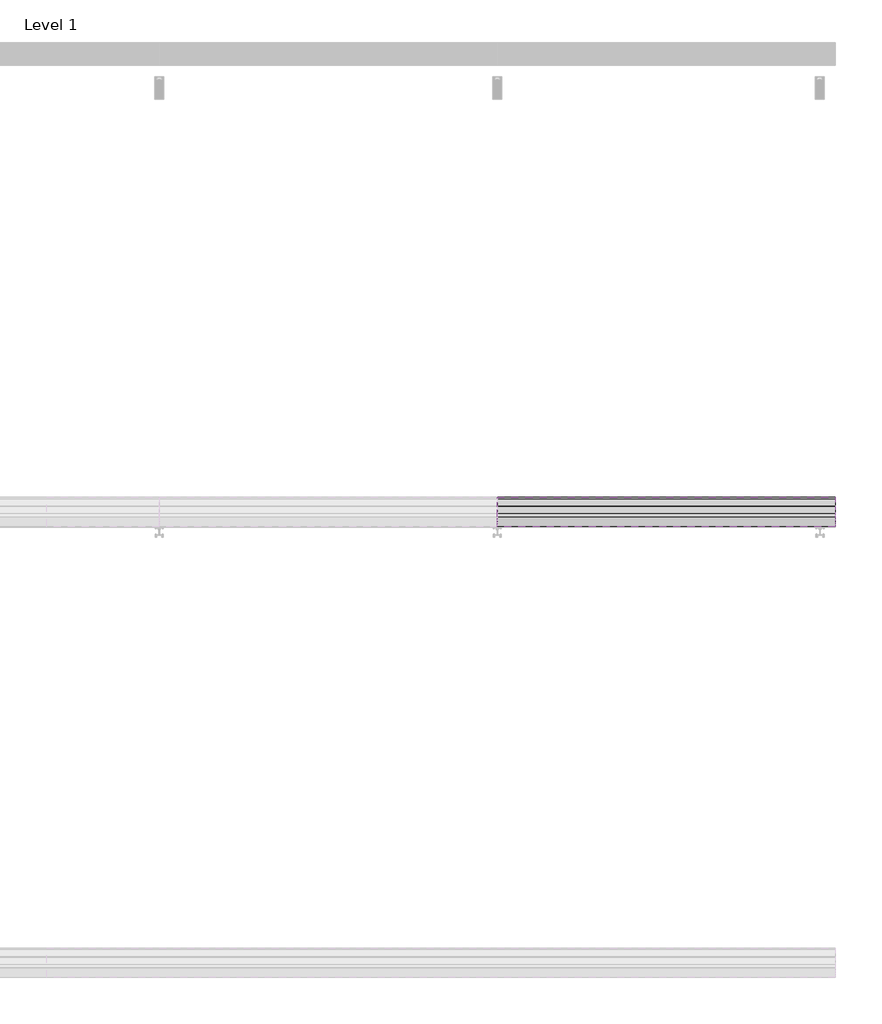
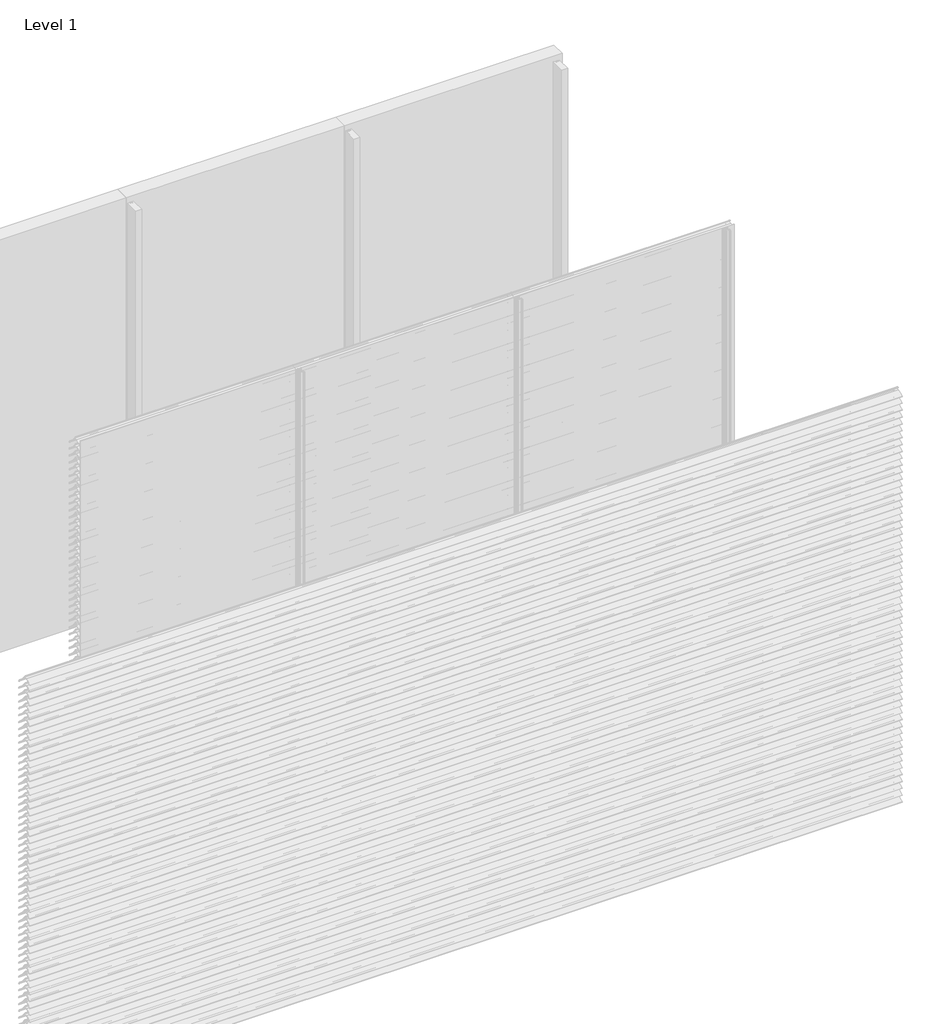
# One storey, part 53 of 173: 18 proxies.
"""IFC4 building model written with IfcOpenShell, lengths in millimetres."""

from ifc_helpers import new_model, si_unit, point, frame, frame_2d, origin, place, context, project, spatial, polyline, circle_curve, trimmed, segment, composite_curve, outline, extrude, element, save

model = new_model("IFC4")

# Units and contexts
model_context = context("Model", 3, world=origin())
ifc_project = project(units=[si_unit("LENGTHUNIT", "METRE", prefix="MILLI")], contexts=[model_context])

# Site, building, storey
site = spatial("IfcSite", under=ifc_project)
building = spatial("IfcBuilding", under=site)
storey = spatial("IfcBuildingStorey", under=building, Name="Level 1", Elevation=0.0)

# Proxies
placement = place(None, origin())
element("IfcBuildingElementProxy", 1, Name="Wall Sweeps", at=placement, inside=storey, context=model_context, shape_type="SweptSolid", body=[
    extrude(outline(composite_curve([segment(polyline([(-41998.0, 1259.1474905), (-41998.0, 1261.6227417)]), True, "CONTINUOUS"), segment(trimmed(circle_curve(frame_2d((-41951.2682172, 1216.2200208)), 65.1557103), [point((-41998.0, 1261.6227417))], [point((-41954.4014323, 1281.3003524))], False, "CARTESIAN"), True, "CONTINUOUS"), segment(polyline([(-41954.4014323, 1281.3003524), (-41934.8315836, 1281.3003524)]), True, "CONTINUOUS"), segment(trimmed(circle_curve(frame_2d((-41732.7329489, 1428.5533172)), 250.0545817), [point((-41934.8315836, 1281.3003524))], [point((-41941.4452143, 1290.8344583))], False, "CARTESIAN"), True, "CONTINUOUS"), segment(trimmed(circle_curve(frame_2d((-41953.2981792, 1285.1737835)), 13.1352966), [point((-41941.4452143, 1290.8344583))], [point((-41953.8171475, 1298.298824))], True, "CARTESIAN"), True, "CONTINUOUS"), segment(polyline([(-41953.8171475, 1298.298824), (-41953.8171475, 1300.0)]), True, "CONTINUOUS"), segment(trimmed(circle_curve(frame_2d((-41953.2981792, 1285.1737835)), 14.8352966), [point((-41953.8171475, 1300.0))], [point((-41939.9637661, 1291.6760487))], False, "CARTESIAN"), True, "CONTINUOUS"), segment(trimmed(circle_curve(frame_2d((-41732.7329489, 1428.5533172)), 248.3545817), [point((-41939.9637661, 1291.6760487))], [point((-41873.8787895, 1224.2059416))], True, "CARTESIAN"), True, "CONTINUOUS"), segment(trimmed(circle_curve(frame_2d((-41883.8147537, 1211.6649442)), 16.0), [point((-41873.8787895, 1224.2059416))], [point((-41867.8648347, 1210.4))], False, "CARTESIAN"), True, "CONTINUOUS"), segment(polyline([(-41867.8648347, 1210.4), (-41869.6712069, 1210.4)]), True, "CONTINUOUS"), segment(trimmed(circle_curve(frame_2d((-41883.8147537, 1211.6649442)), 14.2), [point((-41869.6712069, 1210.4))], [point((-41874.9518628, 1222.7594998))], True, "CARTESIAN"), True, "CONTINUOUS"), segment(trimmed(circle_curve(frame_2d((-41732.7329489, 1428.5533172)), 250.1545817), [point((-41874.9518628, 1222.7594998))], [point((-41933.7064024, 1279.6003524))], False, "CARTESIAN"), True, "CONTINUOUS"), segment(polyline([(-41933.7064024, 1279.6003524), (-41954.3602632, 1279.6003524)]), True, "CONTINUOUS"), segment(trimmed(circle_curve(frame_2d((-41951.2682172, 1216.2200208)), 63.4557103), [point((-41954.3602632, 1279.6003524))], [point((-41998.0, 1259.1474905))], True, "CARTESIAN"), True, "CONTINUOUS")], self_intersect=False)), frame((4500.0, 0.0, 0.0), z_axis=(1.0, 0.0, 0.0), x_axis=(0.0, 1.0, 0.0)), (0.0, 0.0, 1.0), 1500.0),
])
element("IfcBuildingElementProxy", 2, Name="Wall Sweeps", at=placement, inside=storey, context=model_context, shape_type="SweptSolid", body=[
    extrude(outline(composite_curve([segment(polyline([(-41998.0, 1209.1474905), (-41998.0, 1211.6227417)]), True, "CONTINUOUS"), segment(trimmed(circle_curve(frame_2d((-41951.2682172, 1166.2200208)), 65.1557103), [point((-41998.0, 1211.6227417))], [point((-41954.4014323, 1231.3003524))], False, "CARTESIAN"), True, "CONTINUOUS"), segment(polyline([(-41954.4014323, 1231.3003524), (-41934.8315836, 1231.3003524)]), True, "CONTINUOUS"), segment(trimmed(circle_curve(frame_2d((-41732.7329489, 1378.5533172)), 250.0545817), [point((-41934.8315836, 1231.3003524))], [point((-41941.4452143, 1240.8344583))], False, "CARTESIAN"), True, "CONTINUOUS"), segment(trimmed(circle_curve(frame_2d((-41953.2981792, 1235.1737835)), 13.1352966), [point((-41941.4452143, 1240.8344583))], [point((-41953.8171475, 1248.298824))], True, "CARTESIAN"), True, "CONTINUOUS"), segment(polyline([(-41953.8171475, 1248.298824), (-41953.8171475, 1250.0)]), True, "CONTINUOUS"), segment(trimmed(circle_curve(frame_2d((-41953.2981792, 1235.1737835)), 14.8352966), [point((-41953.8171475, 1250.0))], [point((-41939.9637661, 1241.6760487))], False, "CARTESIAN"), True, "CONTINUOUS"), segment(trimmed(circle_curve(frame_2d((-41732.7329489, 1378.5533172)), 248.3545817), [point((-41939.9637661, 1241.6760487))], [point((-41873.8787895, 1174.2059416))], True, "CARTESIAN"), True, "CONTINUOUS"), segment(trimmed(circle_curve(frame_2d((-41883.8147537, 1161.6649442)), 16.0), [point((-41873.8787895, 1174.2059416))], [point((-41867.8648347, 1160.4))], False, "CARTESIAN"), True, "CONTINUOUS"), segment(polyline([(-41867.8648347, 1160.4), (-41869.6712069, 1160.4)]), True, "CONTINUOUS"), segment(trimmed(circle_curve(frame_2d((-41883.8147537, 1161.6649442)), 14.2), [point((-41869.6712069, 1160.4))], [point((-41874.9518628, 1172.7594998))], True, "CARTESIAN"), True, "CONTINUOUS"), segment(trimmed(circle_curve(frame_2d((-41732.7329489, 1378.5533172)), 250.1545817), [point((-41874.9518628, 1172.7594998))], [point((-41933.7064024, 1229.6003524))], False, "CARTESIAN"), True, "CONTINUOUS"), segment(polyline([(-41933.7064024, 1229.6003524), (-41954.3602632, 1229.6003524)]), True, "CONTINUOUS"), segment(trimmed(circle_curve(frame_2d((-41951.2682172, 1166.2200208)), 63.4557103), [point((-41954.3602632, 1229.6003524))], [point((-41998.0, 1209.1474905))], True, "CARTESIAN"), True, "CONTINUOUS")], self_intersect=False)), frame((4500.0, 0.0, 0.0), z_axis=(1.0, 0.0, 0.0), x_axis=(0.0, 1.0, 0.0)), (0.0, 0.0, 1.0), 1500.0),
])
element("IfcBuildingElementProxy", 3, Name="Wall Sweeps", at=placement, inside=storey, context=model_context, shape_type="SweptSolid", body=[
    extrude(outline(composite_curve([segment(polyline([(-41998.0, 1159.1474905), (-41998.0, 1161.6227417)]), True, "CONTINUOUS"), segment(trimmed(circle_curve(frame_2d((-41951.2682172, 1116.2200208)), 65.1557103), [point((-41998.0, 1161.6227417))], [point((-41954.4014323, 1181.3003524))], False, "CARTESIAN"), True, "CONTINUOUS"), segment(polyline([(-41954.4014323, 1181.3003524), (-41934.8315836, 1181.3003524)]), True, "CONTINUOUS"), segment(trimmed(circle_curve(frame_2d((-41732.7329489, 1328.5533172)), 250.0545817), [point((-41934.8315836, 1181.3003524))], [point((-41941.4452143, 1190.8344583))], False, "CARTESIAN"), True, "CONTINUOUS"), segment(trimmed(circle_curve(frame_2d((-41953.2981792, 1185.1737835)), 13.1352966), [point((-41941.4452143, 1190.8344583))], [point((-41953.8171475, 1198.298824))], True, "CARTESIAN"), True, "CONTINUOUS"), segment(polyline([(-41953.8171475, 1198.298824), (-41953.8171475, 1200.0)]), True, "CONTINUOUS"), segment(trimmed(circle_curve(frame_2d((-41953.2981792, 1185.1737835)), 14.8352966), [point((-41953.8171475, 1200.0))], [point((-41939.9637661, 1191.6760487))], False, "CARTESIAN"), True, "CONTINUOUS"), segment(trimmed(circle_curve(frame_2d((-41732.7329489, 1328.5533172)), 248.3545817), [point((-41939.9637661, 1191.6760487))], [point((-41873.8787895, 1124.2059416))], True, "CARTESIAN"), True, "CONTINUOUS"), segment(trimmed(circle_curve(frame_2d((-41883.8147537, 1111.6649442)), 16.0), [point((-41873.8787895, 1124.2059416))], [point((-41867.8648347, 1110.4))], False, "CARTESIAN"), True, "CONTINUOUS"), segment(polyline([(-41867.8648347, 1110.4), (-41869.6712069, 1110.4)]), True, "CONTINUOUS"), segment(trimmed(circle_curve(frame_2d((-41883.8147537, 1111.6649442)), 14.2), [point((-41869.6712069, 1110.4))], [point((-41874.9518628, 1122.7594998))], True, "CARTESIAN"), True, "CONTINUOUS"), segment(trimmed(circle_curve(frame_2d((-41732.7329489, 1328.5533172)), 250.1545817), [point((-41874.9518628, 1122.7594998))], [point((-41933.7064024, 1179.6003524))], False, "CARTESIAN"), True, "CONTINUOUS"), segment(polyline([(-41933.7064024, 1179.6003524), (-41954.3602632, 1179.6003524)]), True, "CONTINUOUS"), segment(trimmed(circle_curve(frame_2d((-41951.2682172, 1116.2200208)), 63.4557103), [point((-41954.3602632, 1179.6003524))], [point((-41998.0, 1159.1474905))], True, "CARTESIAN"), True, "CONTINUOUS")], self_intersect=False)), frame((4500.0, 0.0, 0.0), z_axis=(1.0, 0.0, 0.0), x_axis=(0.0, 1.0, 0.0)), (0.0, 0.0, 1.0), 1500.0),
])
element("IfcBuildingElementProxy", 4, Name="Wall Sweeps", at=placement, inside=storey, context=model_context, shape_type="SweptSolid", body=[
    extrude(outline(composite_curve([segment(polyline([(-41998.0, 1109.1474905), (-41998.0, 1111.6227417)]), True, "CONTINUOUS"), segment(trimmed(circle_curve(frame_2d((-41951.2682172, 1066.2200208)), 65.1557103), [point((-41998.0, 1111.6227417))], [point((-41954.4014323, 1131.3003524))], False, "CARTESIAN"), True, "CONTINUOUS"), segment(polyline([(-41954.4014323, 1131.3003524), (-41934.8315836, 1131.3003524)]), True, "CONTINUOUS"), segment(trimmed(circle_curve(frame_2d((-41732.7329489, 1278.5533172)), 250.0545817), [point((-41934.8315836, 1131.3003524))], [point((-41941.4452143, 1140.8344583))], False, "CARTESIAN"), True, "CONTINUOUS"), segment(trimmed(circle_curve(frame_2d((-41953.2981792, 1135.1737835)), 13.1352966), [point((-41941.4452143, 1140.8344583))], [point((-41953.8171475, 1148.298824))], True, "CARTESIAN"), True, "CONTINUOUS"), segment(polyline([(-41953.8171475, 1148.298824), (-41953.8171475, 1150.0)]), True, "CONTINUOUS"), segment(trimmed(circle_curve(frame_2d((-41953.2981792, 1135.1737835)), 14.8352966), [point((-41953.8171475, 1150.0))], [point((-41939.9637661, 1141.6760487))], False, "CARTESIAN"), True, "CONTINUOUS"), segment(trimmed(circle_curve(frame_2d((-41732.7329489, 1278.5533172)), 248.3545817), [point((-41939.9637661, 1141.6760487))], [point((-41873.8787895, 1074.2059416))], True, "CARTESIAN"), True, "CONTINUOUS"), segment(trimmed(circle_curve(frame_2d((-41883.8147537, 1061.6649442)), 16.0), [point((-41873.8787895, 1074.2059416))], [point((-41867.8648347, 1060.4))], False, "CARTESIAN"), True, "CONTINUOUS"), segment(polyline([(-41867.8648347, 1060.4), (-41869.6712069, 1060.4)]), True, "CONTINUOUS"), segment(trimmed(circle_curve(frame_2d((-41883.8147537, 1061.6649442)), 14.2), [point((-41869.6712069, 1060.4))], [point((-41874.9518628, 1072.7594998))], True, "CARTESIAN"), True, "CONTINUOUS"), segment(trimmed(circle_curve(frame_2d((-41732.7329489, 1278.5533172)), 250.1545817), [point((-41874.9518628, 1072.7594998))], [point((-41933.7064024, 1129.6003524))], False, "CARTESIAN"), True, "CONTINUOUS"), segment(polyline([(-41933.7064024, 1129.6003524), (-41954.3602632, 1129.6003524)]), True, "CONTINUOUS"), segment(trimmed(circle_curve(frame_2d((-41951.2682172, 1066.2200208)), 63.4557103), [point((-41954.3602632, 1129.6003524))], [point((-41998.0, 1109.1474905))], True, "CARTESIAN"), True, "CONTINUOUS")], self_intersect=False)), frame((4500.0, 0.0, 0.0), z_axis=(1.0, 0.0, 0.0), x_axis=(0.0, 1.0, 0.0)), (0.0, 0.0, 1.0), 1500.0),
])
element("IfcBuildingElementProxy", 5, Name="Wall Sweeps", at=placement, inside=storey, context=model_context, shape_type="SweptSolid", body=[
    extrude(outline(composite_curve([segment(polyline([(-41998.0, 1059.1474905), (-41998.0, 1061.6227417)]), True, "CONTINUOUS"), segment(trimmed(circle_curve(frame_2d((-41951.2682172, 1016.2200208)), 65.1557103), [point((-41998.0, 1061.6227417))], [point((-41954.4014323, 1081.3003524))], False, "CARTESIAN"), True, "CONTINUOUS"), segment(polyline([(-41954.4014323, 1081.3003524), (-41934.8315836, 1081.3003524)]), True, "CONTINUOUS"), segment(trimmed(circle_curve(frame_2d((-41732.7329489, 1228.5533172)), 250.0545817), [point((-41934.8315836, 1081.3003524))], [point((-41941.4452143, 1090.8344583))], False, "CARTESIAN"), True, "CONTINUOUS"), segment(trimmed(circle_curve(frame_2d((-41953.2981792, 1085.1737835)), 13.1352966), [point((-41941.4452143, 1090.8344583))], [point((-41953.8171475, 1098.298824))], True, "CARTESIAN"), True, "CONTINUOUS"), segment(polyline([(-41953.8171475, 1098.298824), (-41953.8171475, 1100.0)]), True, "CONTINUOUS"), segment(trimmed(circle_curve(frame_2d((-41953.2981792, 1085.1737835)), 14.8352966), [point((-41953.8171475, 1100.0))], [point((-41939.9637661, 1091.6760487))], False, "CARTESIAN"), True, "CONTINUOUS"), segment(trimmed(circle_curve(frame_2d((-41732.7329489, 1228.5533172)), 248.3545817), [point((-41939.9637661, 1091.6760487))], [point((-41873.8787895, 1024.2059416))], True, "CARTESIAN"), True, "CONTINUOUS"), segment(trimmed(circle_curve(frame_2d((-41883.8147537, 1011.6649442)), 16.0), [point((-41873.8787895, 1024.2059416))], [point((-41867.8648347, 1010.4))], False, "CARTESIAN"), True, "CONTINUOUS"), segment(polyline([(-41867.8648347, 1010.4), (-41869.6712069, 1010.4)]), True, "CONTINUOUS"), segment(trimmed(circle_curve(frame_2d((-41883.8147537, 1011.6649442)), 14.2), [point((-41869.6712069, 1010.4))], [point((-41874.9518628, 1022.7594998))], True, "CARTESIAN"), True, "CONTINUOUS"), segment(trimmed(circle_curve(frame_2d((-41732.7329489, 1228.5533172)), 250.1545817), [point((-41874.9518628, 1022.7594998))], [point((-41933.7064024, 1079.6003524))], False, "CARTESIAN"), True, "CONTINUOUS"), segment(polyline([(-41933.7064024, 1079.6003524), (-41954.3602632, 1079.6003524)]), True, "CONTINUOUS"), segment(trimmed(circle_curve(frame_2d((-41951.2682172, 1016.2200208)), 63.4557103), [point((-41954.3602632, 1079.6003524))], [point((-41998.0, 1059.1474905))], True, "CARTESIAN"), True, "CONTINUOUS")], self_intersect=False)), frame((4500.0, 0.0, 0.0), z_axis=(1.0, 0.0, 0.0), x_axis=(0.0, 1.0, 0.0)), (0.0, 0.0, 1.0), 1500.0),
])
element("IfcBuildingElementProxy", 6, Name="Wall Sweeps", at=placement, inside=storey, context=model_context, shape_type="SweptSolid", body=[
    extrude(outline(composite_curve([segment(polyline([(-41998.0, 1009.1474905), (-41998.0, 1011.6227417)]), True, "CONTINUOUS"), segment(trimmed(circle_curve(frame_2d((-41951.2682172, 966.2200208)), 65.1557103), [point((-41998.0, 1011.6227417))], [point((-41954.4014323, 1031.3003524))], False, "CARTESIAN"), True, "CONTINUOUS"), segment(polyline([(-41954.4014323, 1031.3003524), (-41934.8315836, 1031.3003524)]), True, "CONTINUOUS"), segment(trimmed(circle_curve(frame_2d((-41732.7329489, 1178.5533172)), 250.0545817), [point((-41934.8315836, 1031.3003524))], [point((-41941.4452143, 1040.8344583))], False, "CARTESIAN"), True, "CONTINUOUS"), segment(trimmed(circle_curve(frame_2d((-41953.2981792, 1035.1737835)), 13.1352966), [point((-41941.4452143, 1040.8344583))], [point((-41953.8171475, 1048.298824))], True, "CARTESIAN"), True, "CONTINUOUS"), segment(polyline([(-41953.8171475, 1048.298824), (-41953.8171475, 1050.0)]), True, "CONTINUOUS"), segment(trimmed(circle_curve(frame_2d((-41953.2981792, 1035.1737835)), 14.8352966), [point((-41953.8171475, 1050.0))], [point((-41939.9637661, 1041.6760487))], False, "CARTESIAN"), True, "CONTINUOUS"), segment(trimmed(circle_curve(frame_2d((-41732.7329489, 1178.5533172)), 248.3545817), [point((-41939.9637661, 1041.6760487))], [point((-41873.8787895, 974.2059416))], True, "CARTESIAN"), True, "CONTINUOUS"), segment(trimmed(circle_curve(frame_2d((-41883.8147537, 961.6649442)), 16.0), [point((-41873.8787895, 974.2059416))], [point((-41867.8648347, 960.4))], False, "CARTESIAN"), True, "CONTINUOUS"), segment(polyline([(-41867.8648347, 960.4), (-41869.6712069, 960.4)]), True, "CONTINUOUS"), segment(trimmed(circle_curve(frame_2d((-41883.8147537, 961.6649442)), 14.2), [point((-41869.6712069, 960.4))], [point((-41874.9518628, 972.7594998))], True, "CARTESIAN"), True, "CONTINUOUS"), segment(trimmed(circle_curve(frame_2d((-41732.7329489, 1178.5533172)), 250.1545817), [point((-41874.9518628, 972.7594998))], [point((-41933.7064024, 1029.6003524))], False, "CARTESIAN"), True, "CONTINUOUS"), segment(polyline([(-41933.7064024, 1029.6003524), (-41954.3602632, 1029.6003524)]), True, "CONTINUOUS"), segment(trimmed(circle_curve(frame_2d((-41951.2682172, 966.2200208)), 63.4557103), [point((-41954.3602632, 1029.6003524))], [point((-41998.0, 1009.1474905))], True, "CARTESIAN"), True, "CONTINUOUS")], self_intersect=False)), frame((4500.0, 0.0, 0.0), z_axis=(1.0, 0.0, 0.0), x_axis=(0.0, 1.0, 0.0)), (0.0, 0.0, 1.0), 1500.0),
])
element("IfcBuildingElementProxy", 7, Name="Wall Sweeps", at=placement, inside=storey, context=model_context, shape_type="SweptSolid", body=[
    extrude(outline(composite_curve([segment(polyline([(-41998.0, 959.1474905), (-41998.0, 961.6227417)]), True, "CONTINUOUS"), segment(trimmed(circle_curve(frame_2d((-41951.2682172, 916.2200208)), 65.1557103), [point((-41998.0, 961.6227417))], [point((-41954.4014323, 981.3003524))], False, "CARTESIAN"), True, "CONTINUOUS"), segment(polyline([(-41954.4014323, 981.3003524), (-41934.8315836, 981.3003524)]), True, "CONTINUOUS"), segment(trimmed(circle_curve(frame_2d((-41732.7329489, 1128.5533172)), 250.0545817), [point((-41934.8315836, 981.3003524))], [point((-41941.4452143, 990.8344583))], False, "CARTESIAN"), True, "CONTINUOUS"), segment(trimmed(circle_curve(frame_2d((-41953.2981792, 985.1737835)), 13.1352966), [point((-41941.4452143, 990.8344583))], [point((-41953.8171475, 998.298824))], True, "CARTESIAN"), True, "CONTINUOUS"), segment(polyline([(-41953.8171475, 998.298824), (-41953.8171475, 1000.0)]), True, "CONTINUOUS"), segment(trimmed(circle_curve(frame_2d((-41953.2981792, 985.1737835)), 14.8352966), [point((-41953.8171475, 1000.0))], [point((-41939.9637661, 991.6760487))], False, "CARTESIAN"), True, "CONTINUOUS"), segment(trimmed(circle_curve(frame_2d((-41732.7329489, 1128.5533172)), 248.3545817), [point((-41939.9637661, 991.6760487))], [point((-41873.8787895, 924.2059416))], True, "CARTESIAN"), True, "CONTINUOUS"), segment(trimmed(circle_curve(frame_2d((-41883.8147537, 911.6649442)), 16.0), [point((-41873.8787895, 924.2059416))], [point((-41867.8648347, 910.4))], False, "CARTESIAN"), True, "CONTINUOUS"), segment(polyline([(-41867.8648347, 910.4), (-41869.6712069, 910.4)]), True, "CONTINUOUS"), segment(trimmed(circle_curve(frame_2d((-41883.8147537, 911.6649442)), 14.2), [point((-41869.6712069, 910.4))], [point((-41874.9518628, 922.7594998))], True, "CARTESIAN"), True, "CONTINUOUS"), segment(trimmed(circle_curve(frame_2d((-41732.7329489, 1128.5533172)), 250.1545817), [point((-41874.9518628, 922.7594998))], [point((-41933.7064024, 979.6003524))], False, "CARTESIAN"), True, "CONTINUOUS"), segment(polyline([(-41933.7064024, 979.6003524), (-41954.3602632, 979.6003524)]), True, "CONTINUOUS"), segment(trimmed(circle_curve(frame_2d((-41951.2682172, 916.2200208)), 63.4557103), [point((-41954.3602632, 979.6003524))], [point((-41998.0, 959.1474905))], True, "CARTESIAN"), True, "CONTINUOUS")], self_intersect=False)), frame((4500.0, 0.0, 0.0), z_axis=(1.0, 0.0, 0.0), x_axis=(0.0, 1.0, 0.0)), (0.0, 0.0, 1.0), 1500.0),
])
element("IfcBuildingElementProxy", 8, Name="Wall Sweeps", at=placement, inside=storey, context=model_context, shape_type="SweptSolid", body=[
    extrude(outline(composite_curve([segment(polyline([(-41998.0, 909.1474905), (-41998.0, 911.6227417)]), True, "CONTINUOUS"), segment(trimmed(circle_curve(frame_2d((-41951.2682172, 866.2200208)), 65.1557103), [point((-41998.0, 911.6227417))], [point((-41954.4014323, 931.3003524))], False, "CARTESIAN"), True, "CONTINUOUS"), segment(polyline([(-41954.4014323, 931.3003524), (-41934.8315836, 931.3003524)]), True, "CONTINUOUS"), segment(trimmed(circle_curve(frame_2d((-41732.7329489, 1078.5533172)), 250.0545817), [point((-41934.8315836, 931.3003524))], [point((-41941.4452143, 940.8344583))], False, "CARTESIAN"), True, "CONTINUOUS"), segment(trimmed(circle_curve(frame_2d((-41953.2981792, 935.1737835)), 13.1352966), [point((-41941.4452143, 940.8344583))], [point((-41953.8171475, 948.298824))], True, "CARTESIAN"), True, "CONTINUOUS"), segment(polyline([(-41953.8171475, 948.298824), (-41953.8171475, 950.0)]), True, "CONTINUOUS"), segment(trimmed(circle_curve(frame_2d((-41953.2981792, 935.1737835)), 14.8352966), [point((-41953.8171475, 950.0))], [point((-41939.9637661, 941.6760487))], False, "CARTESIAN"), True, "CONTINUOUS"), segment(trimmed(circle_curve(frame_2d((-41732.7329489, 1078.5533172)), 248.3545817), [point((-41939.9637661, 941.6760487))], [point((-41873.8787895, 874.2059416))], True, "CARTESIAN"), True, "CONTINUOUS"), segment(trimmed(circle_curve(frame_2d((-41883.8147537, 861.6649442)), 16.0), [point((-41873.8787895, 874.2059416))], [point((-41867.8648347, 860.4))], False, "CARTESIAN"), True, "CONTINUOUS"), segment(polyline([(-41867.8648347, 860.4), (-41869.6712069, 860.4)]), True, "CONTINUOUS"), segment(trimmed(circle_curve(frame_2d((-41883.8147537, 861.6649442)), 14.2), [point((-41869.6712069, 860.4))], [point((-41874.9518628, 872.7594998))], True, "CARTESIAN"), True, "CONTINUOUS"), segment(trimmed(circle_curve(frame_2d((-41732.7329489, 1078.5533172)), 250.1545817), [point((-41874.9518628, 872.7594998))], [point((-41933.7064024, 929.6003524))], False, "CARTESIAN"), True, "CONTINUOUS"), segment(polyline([(-41933.7064024, 929.6003524), (-41954.3602632, 929.6003524)]), True, "CONTINUOUS"), segment(trimmed(circle_curve(frame_2d((-41951.2682172, 866.2200208)), 63.4557103), [point((-41954.3602632, 929.6003524))], [point((-41998.0, 909.1474905))], True, "CARTESIAN"), True, "CONTINUOUS")], self_intersect=False)), frame((4500.0, 0.0, 0.0), z_axis=(1.0, 0.0, 0.0), x_axis=(0.0, 1.0, 0.0)), (0.0, 0.0, 1.0), 1500.0),
])
element("IfcBuildingElementProxy", 9, Name="Wall Sweeps", at=placement, inside=storey, context=model_context, shape_type="SweptSolid", body=[
    extrude(outline(composite_curve([segment(polyline([(-41998.0, 859.1474905), (-41998.0, 861.6227417)]), True, "CONTINUOUS"), segment(trimmed(circle_curve(frame_2d((-41951.2682172, 816.2200208)), 65.1557103), [point((-41998.0, 861.6227417))], [point((-41954.4014323, 881.3003524))], False, "CARTESIAN"), True, "CONTINUOUS"), segment(polyline([(-41954.4014323, 881.3003524), (-41934.8315836, 881.3003524)]), True, "CONTINUOUS"), segment(trimmed(circle_curve(frame_2d((-41732.7329489, 1028.5533172)), 250.0545817), [point((-41934.8315836, 881.3003524))], [point((-41941.4452143, 890.8344583))], False, "CARTESIAN"), True, "CONTINUOUS"), segment(trimmed(circle_curve(frame_2d((-41953.2981792, 885.1737835)), 13.1352966), [point((-41941.4452143, 890.8344583))], [point((-41953.8171475, 898.298824))], True, "CARTESIAN"), True, "CONTINUOUS"), segment(polyline([(-41953.8171475, 898.298824), (-41953.8171475, 900.0)]), True, "CONTINUOUS"), segment(trimmed(circle_curve(frame_2d((-41953.2981792, 885.1737835)), 14.8352966), [point((-41953.8171475, 900.0))], [point((-41939.9637661, 891.6760487))], False, "CARTESIAN"), True, "CONTINUOUS"), segment(trimmed(circle_curve(frame_2d((-41732.7329489, 1028.5533172)), 248.3545817), [point((-41939.9637661, 891.6760487))], [point((-41873.8787895, 824.2059416))], True, "CARTESIAN"), True, "CONTINUOUS"), segment(trimmed(circle_curve(frame_2d((-41883.8147537, 811.6649442)), 16.0), [point((-41873.8787895, 824.2059416))], [point((-41867.8648347, 810.4))], False, "CARTESIAN"), True, "CONTINUOUS"), segment(polyline([(-41867.8648347, 810.4), (-41869.6712069, 810.4)]), True, "CONTINUOUS"), segment(trimmed(circle_curve(frame_2d((-41883.8147537, 811.6649442)), 14.2), [point((-41869.6712069, 810.4))], [point((-41874.9518628, 822.7594998))], True, "CARTESIAN"), True, "CONTINUOUS"), segment(trimmed(circle_curve(frame_2d((-41732.7329489, 1028.5533172)), 250.1545817), [point((-41874.9518628, 822.7594998))], [point((-41933.7064024, 879.6003524))], False, "CARTESIAN"), True, "CONTINUOUS"), segment(polyline([(-41933.7064024, 879.6003524), (-41954.3602632, 879.6003524)]), True, "CONTINUOUS"), segment(trimmed(circle_curve(frame_2d((-41951.2682172, 816.2200208)), 63.4557103), [point((-41954.3602632, 879.6003524))], [point((-41998.0, 859.1474905))], True, "CARTESIAN"), True, "CONTINUOUS")], self_intersect=False)), frame((4500.0, 0.0, 0.0), z_axis=(1.0, 0.0, 0.0), x_axis=(0.0, 1.0, 0.0)), (0.0, 0.0, 1.0), 1500.0),
])
element("IfcBuildingElementProxy", 10, Name="Wall Sweeps", at=placement, inside=storey, context=model_context, shape_type="SweptSolid", body=[
    extrude(outline(composite_curve([segment(polyline([(-41998.0, 809.1474905), (-41998.0, 811.6227417)]), True, "CONTINUOUS"), segment(trimmed(circle_curve(frame_2d((-41951.2682172, 766.2200208)), 65.1557103), [point((-41998.0, 811.6227417))], [point((-41954.4014323, 831.3003524))], False, "CARTESIAN"), True, "CONTINUOUS"), segment(polyline([(-41954.4014323, 831.3003524), (-41934.8315836, 831.3003524)]), True, "CONTINUOUS"), segment(trimmed(circle_curve(frame_2d((-41732.7329489, 978.5533172)), 250.0545817), [point((-41934.8315836, 831.3003524))], [point((-41941.4452143, 840.8344583))], False, "CARTESIAN"), True, "CONTINUOUS"), segment(trimmed(circle_curve(frame_2d((-41953.2981792, 835.1737835)), 13.1352966), [point((-41941.4452143, 840.8344583))], [point((-41953.8171475, 848.298824))], True, "CARTESIAN"), True, "CONTINUOUS"), segment(polyline([(-41953.8171475, 848.298824), (-41953.8171475, 850.0)]), True, "CONTINUOUS"), segment(trimmed(circle_curve(frame_2d((-41953.2981792, 835.1737835)), 14.8352966), [point((-41953.8171475, 850.0))], [point((-41939.9637661, 841.6760487))], False, "CARTESIAN"), True, "CONTINUOUS"), segment(trimmed(circle_curve(frame_2d((-41732.7329489, 978.5533172)), 248.3545817), [point((-41939.9637661, 841.6760487))], [point((-41873.8787895, 774.2059416))], True, "CARTESIAN"), True, "CONTINUOUS"), segment(trimmed(circle_curve(frame_2d((-41883.8147537, 761.6649442)), 16.0), [point((-41873.8787895, 774.2059416))], [point((-41867.8648347, 760.4))], False, "CARTESIAN"), True, "CONTINUOUS"), segment(polyline([(-41867.8648347, 760.4), (-41869.6712069, 760.4)]), True, "CONTINUOUS"), segment(trimmed(circle_curve(frame_2d((-41883.8147537, 761.6649442)), 14.2), [point((-41869.6712069, 760.4))], [point((-41874.9518628, 772.7594998))], True, "CARTESIAN"), True, "CONTINUOUS"), segment(trimmed(circle_curve(frame_2d((-41732.7329489, 978.5533172)), 250.1545817), [point((-41874.9518628, 772.7594998))], [point((-41933.7064024, 829.6003524))], False, "CARTESIAN"), True, "CONTINUOUS"), segment(polyline([(-41933.7064024, 829.6003524), (-41954.3602632, 829.6003524)]), True, "CONTINUOUS"), segment(trimmed(circle_curve(frame_2d((-41951.2682172, 766.2200208)), 63.4557103), [point((-41954.3602632, 829.6003524))], [point((-41998.0, 809.1474905))], True, "CARTESIAN"), True, "CONTINUOUS")], self_intersect=False)), frame((4500.0, 0.0, 0.0), z_axis=(1.0, 0.0, 0.0), x_axis=(0.0, 1.0, 0.0)), (0.0, 0.0, 1.0), 1500.0),
])
element("IfcBuildingElementProxy", 11, Name="Wall Sweeps", at=placement, inside=storey, context=model_context, shape_type="SweptSolid", body=[
    extrude(outline(composite_curve([segment(polyline([(-41998.0, 759.1474905), (-41998.0, 761.6227417)]), True, "CONTINUOUS"), segment(trimmed(circle_curve(frame_2d((-41951.2682172, 716.2200208)), 65.1557103), [point((-41998.0, 761.6227417))], [point((-41954.4014323, 781.3003524))], False, "CARTESIAN"), True, "CONTINUOUS"), segment(polyline([(-41954.4014323, 781.3003524), (-41934.8315836, 781.3003524)]), True, "CONTINUOUS"), segment(trimmed(circle_curve(frame_2d((-41732.7329489, 928.5533172)), 250.0545817), [point((-41934.8315836, 781.3003524))], [point((-41941.4452143, 790.8344583))], False, "CARTESIAN"), True, "CONTINUOUS"), segment(trimmed(circle_curve(frame_2d((-41953.2981792, 785.1737835)), 13.1352966), [point((-41941.4452143, 790.8344583))], [point((-41953.8171475, 798.298824))], True, "CARTESIAN"), True, "CONTINUOUS"), segment(polyline([(-41953.8171475, 798.298824), (-41953.8171475, 800.0)]), True, "CONTINUOUS"), segment(trimmed(circle_curve(frame_2d((-41953.2981792, 785.1737835)), 14.8352966), [point((-41953.8171475, 800.0))], [point((-41939.9637661, 791.6760487))], False, "CARTESIAN"), True, "CONTINUOUS"), segment(trimmed(circle_curve(frame_2d((-41732.7329489, 928.5533172)), 248.3545817), [point((-41939.9637661, 791.6760487))], [point((-41873.8787895, 724.2059416))], True, "CARTESIAN"), True, "CONTINUOUS"), segment(trimmed(circle_curve(frame_2d((-41883.8147537, 711.6649442)), 16.0), [point((-41873.8787895, 724.2059416))], [point((-41867.8648347, 710.4))], False, "CARTESIAN"), True, "CONTINUOUS"), segment(polyline([(-41867.8648347, 710.4), (-41869.6712069, 710.4)]), True, "CONTINUOUS"), segment(trimmed(circle_curve(frame_2d((-41883.8147537, 711.6649442)), 14.2), [point((-41869.6712069, 710.4))], [point((-41874.9518628, 722.7594998))], True, "CARTESIAN"), True, "CONTINUOUS"), segment(trimmed(circle_curve(frame_2d((-41732.7329489, 928.5533172)), 250.1545817), [point((-41874.9518628, 722.7594998))], [point((-41933.7064024, 779.6003524))], False, "CARTESIAN"), True, "CONTINUOUS"), segment(polyline([(-41933.7064024, 779.6003524), (-41954.3602632, 779.6003524)]), True, "CONTINUOUS"), segment(trimmed(circle_curve(frame_2d((-41951.2682172, 716.2200208)), 63.4557103), [point((-41954.3602632, 779.6003524))], [point((-41998.0, 759.1474905))], True, "CARTESIAN"), True, "CONTINUOUS")], self_intersect=False)), frame((4500.0, 0.0, 0.0), z_axis=(1.0, 0.0, 0.0), x_axis=(0.0, 1.0, 0.0)), (0.0, 0.0, 1.0), 1500.0),
])
element("IfcBuildingElementProxy", 12, Name="Wall Sweeps", at=placement, inside=storey, context=model_context, shape_type="SweptSolid", body=[
    extrude(outline(composite_curve([segment(polyline([(-41998.0, 709.1474905), (-41998.0, 711.6227417)]), True, "CONTINUOUS"), segment(trimmed(circle_curve(frame_2d((-41951.2682172, 666.2200208)), 65.1557103), [point((-41998.0, 711.6227417))], [point((-41954.4014323, 731.3003524))], False, "CARTESIAN"), True, "CONTINUOUS"), segment(polyline([(-41954.4014323, 731.3003524), (-41934.8315836, 731.3003524)]), True, "CONTINUOUS"), segment(trimmed(circle_curve(frame_2d((-41732.7329489, 878.5533172)), 250.0545817), [point((-41934.8315836, 731.3003524))], [point((-41941.4452143, 740.8344583))], False, "CARTESIAN"), True, "CONTINUOUS"), segment(trimmed(circle_curve(frame_2d((-41953.2981792, 735.1737835)), 13.1352966), [point((-41941.4452143, 740.8344583))], [point((-41953.8171475, 748.298824))], True, "CARTESIAN"), True, "CONTINUOUS"), segment(polyline([(-41953.8171475, 748.298824), (-41953.8171475, 750.0)]), True, "CONTINUOUS"), segment(trimmed(circle_curve(frame_2d((-41953.2981792, 735.1737835)), 14.8352966), [point((-41953.8171475, 750.0))], [point((-41939.9637661, 741.6760487))], False, "CARTESIAN"), True, "CONTINUOUS"), segment(trimmed(circle_curve(frame_2d((-41732.7329489, 878.5533172)), 248.3545817), [point((-41939.9637661, 741.6760487))], [point((-41873.8787895, 674.2059416))], True, "CARTESIAN"), True, "CONTINUOUS"), segment(trimmed(circle_curve(frame_2d((-41883.8147537, 661.6649442)), 16.0), [point((-41873.8787895, 674.2059416))], [point((-41867.8648347, 660.4))], False, "CARTESIAN"), True, "CONTINUOUS"), segment(polyline([(-41867.8648347, 660.4), (-41869.6712069, 660.4)]), True, "CONTINUOUS"), segment(trimmed(circle_curve(frame_2d((-41883.8147537, 661.6649442)), 14.2), [point((-41869.6712069, 660.4))], [point((-41874.9518628, 672.7594998))], True, "CARTESIAN"), True, "CONTINUOUS"), segment(trimmed(circle_curve(frame_2d((-41732.7329489, 878.5533172)), 250.1545817), [point((-41874.9518628, 672.7594998))], [point((-41933.7064024, 729.6003524))], False, "CARTESIAN"), True, "CONTINUOUS"), segment(polyline([(-41933.7064024, 729.6003524), (-41954.3602632, 729.6003524)]), True, "CONTINUOUS"), segment(trimmed(circle_curve(frame_2d((-41951.2682172, 666.2200208)), 63.4557103), [point((-41954.3602632, 729.6003524))], [point((-41998.0, 709.1474905))], True, "CARTESIAN"), True, "CONTINUOUS")], self_intersect=False)), frame((4500.0, 0.0, 0.0), z_axis=(1.0, 0.0, 0.0), x_axis=(0.0, 1.0, 0.0)), (0.0, 0.0, 1.0), 1500.0),
])
element("IfcBuildingElementProxy", 13, Name="Wall Sweeps", at=placement, inside=storey, context=model_context, shape_type="SweptSolid", body=[
    extrude(outline(composite_curve([segment(polyline([(-41998.0, 659.1474905), (-41998.0, 661.6227417)]), True, "CONTINUOUS"), segment(trimmed(circle_curve(frame_2d((-41951.2682172, 616.2200208)), 65.1557103), [point((-41998.0, 661.6227417))], [point((-41954.4014323, 681.3003524))], False, "CARTESIAN"), True, "CONTINUOUS"), segment(polyline([(-41954.4014323, 681.3003524), (-41934.8315836, 681.3003524)]), True, "CONTINUOUS"), segment(trimmed(circle_curve(frame_2d((-41732.7329489, 828.5533172)), 250.0545817), [point((-41934.8315836, 681.3003524))], [point((-41941.4452143, 690.8344583))], False, "CARTESIAN"), True, "CONTINUOUS"), segment(trimmed(circle_curve(frame_2d((-41953.2981792, 685.1737835)), 13.1352966), [point((-41941.4452143, 690.8344583))], [point((-41953.8171475, 698.298824))], True, "CARTESIAN"), True, "CONTINUOUS"), segment(polyline([(-41953.8171475, 698.298824), (-41953.8171475, 700.0)]), True, "CONTINUOUS"), segment(trimmed(circle_curve(frame_2d((-41953.2981792, 685.1737835)), 14.8352966), [point((-41953.8171475, 700.0))], [point((-41939.9637661, 691.6760487))], False, "CARTESIAN"), True, "CONTINUOUS"), segment(trimmed(circle_curve(frame_2d((-41732.7329489, 828.5533172)), 248.3545817), [point((-41939.9637661, 691.6760487))], [point((-41873.8787895, 624.2059416))], True, "CARTESIAN"), True, "CONTINUOUS"), segment(trimmed(circle_curve(frame_2d((-41883.8147537, 611.6649442)), 16.0), [point((-41873.8787895, 624.2059416))], [point((-41867.8648347, 610.4))], False, "CARTESIAN"), True, "CONTINUOUS"), segment(polyline([(-41867.8648347, 610.4), (-41869.6712069, 610.4)]), True, "CONTINUOUS"), segment(trimmed(circle_curve(frame_2d((-41883.8147537, 611.6649442)), 14.2), [point((-41869.6712069, 610.4))], [point((-41874.9518628, 622.7594998))], True, "CARTESIAN"), True, "CONTINUOUS"), segment(trimmed(circle_curve(frame_2d((-41732.7329489, 828.5533172)), 250.1545817), [point((-41874.9518628, 622.7594998))], [point((-41933.7064024, 679.6003524))], False, "CARTESIAN"), True, "CONTINUOUS"), segment(polyline([(-41933.7064024, 679.6003524), (-41954.3602632, 679.6003524)]), True, "CONTINUOUS"), segment(trimmed(circle_curve(frame_2d((-41951.2682172, 616.2200208)), 63.4557103), [point((-41954.3602632, 679.6003524))], [point((-41998.0, 659.1474905))], True, "CARTESIAN"), True, "CONTINUOUS")], self_intersect=False)), frame((4500.0, 0.0, 0.0), z_axis=(1.0, 0.0, 0.0), x_axis=(0.0, 1.0, 0.0)), (0.0, 0.0, 1.0), 1500.0),
])
element("IfcBuildingElementProxy", 14, Name="Wall Sweeps", at=placement, inside=storey, context=model_context, shape_type="SweptSolid", body=[
    extrude(outline(composite_curve([segment(polyline([(-41998.0, 609.1474905), (-41998.0, 611.6227417)]), True, "CONTINUOUS"), segment(trimmed(circle_curve(frame_2d((-41951.2682172, 566.2200208)), 65.1557103), [point((-41998.0, 611.6227417))], [point((-41954.4014323, 631.3003524))], False, "CARTESIAN"), True, "CONTINUOUS"), segment(polyline([(-41954.4014323, 631.3003524), (-41934.8315836, 631.3003524)]), True, "CONTINUOUS"), segment(trimmed(circle_curve(frame_2d((-41732.7329489, 778.5533172)), 250.0545817), [point((-41934.8315836, 631.3003524))], [point((-41941.4452143, 640.8344583))], False, "CARTESIAN"), True, "CONTINUOUS"), segment(trimmed(circle_curve(frame_2d((-41953.2981792, 635.1737835)), 13.1352966), [point((-41941.4452143, 640.8344583))], [point((-41953.8171475, 648.298824))], True, "CARTESIAN"), True, "CONTINUOUS"), segment(polyline([(-41953.8171475, 648.298824), (-41953.8171475, 650.0)]), True, "CONTINUOUS"), segment(trimmed(circle_curve(frame_2d((-41953.2981792, 635.1737835)), 14.8352966), [point((-41953.8171475, 650.0))], [point((-41939.9637661, 641.6760487))], False, "CARTESIAN"), True, "CONTINUOUS"), segment(trimmed(circle_curve(frame_2d((-41732.7329489, 778.5533172)), 248.3545817), [point((-41939.9637661, 641.6760487))], [point((-41873.8787895, 574.2059416))], True, "CARTESIAN"), True, "CONTINUOUS"), segment(trimmed(circle_curve(frame_2d((-41883.8147537, 561.6649442)), 16.0), [point((-41873.8787895, 574.2059416))], [point((-41867.8648347, 560.4))], False, "CARTESIAN"), True, "CONTINUOUS"), segment(polyline([(-41867.8648347, 560.4), (-41869.6712069, 560.4)]), True, "CONTINUOUS"), segment(trimmed(circle_curve(frame_2d((-41883.8147537, 561.6649442)), 14.2), [point((-41869.6712069, 560.4))], [point((-41874.9518628, 572.7594998))], True, "CARTESIAN"), True, "CONTINUOUS"), segment(trimmed(circle_curve(frame_2d((-41732.7329489, 778.5533172)), 250.1545817), [point((-41874.9518628, 572.7594998))], [point((-41933.7064024, 629.6003524))], False, "CARTESIAN"), True, "CONTINUOUS"), segment(polyline([(-41933.7064024, 629.6003524), (-41954.3602632, 629.6003524)]), True, "CONTINUOUS"), segment(trimmed(circle_curve(frame_2d((-41951.2682172, 566.2200208)), 63.4557103), [point((-41954.3602632, 629.6003524))], [point((-41998.0, 609.1474905))], True, "CARTESIAN"), True, "CONTINUOUS")], self_intersect=False)), frame((4500.0, 0.0, 0.0), z_axis=(1.0, 0.0, 0.0), x_axis=(0.0, 1.0, 0.0)), (0.0, 0.0, 1.0), 1500.0),
])
element("IfcBuildingElementProxy", 15, Name="Wall Sweeps", at=placement, inside=storey, context=model_context, shape_type="SweptSolid", body=[
    extrude(outline(composite_curve([segment(polyline([(-41998.0, 559.1474905), (-41998.0, 561.6227417)]), True, "CONTINUOUS"), segment(trimmed(circle_curve(frame_2d((-41951.2682172, 516.2200208)), 65.1557103), [point((-41998.0, 561.6227417))], [point((-41954.4014323, 581.3003524))], False, "CARTESIAN"), True, "CONTINUOUS"), segment(polyline([(-41954.4014323, 581.3003524), (-41934.8315836, 581.3003524)]), True, "CONTINUOUS"), segment(trimmed(circle_curve(frame_2d((-41732.7329489, 728.5533172)), 250.0545817), [point((-41934.8315836, 581.3003524))], [point((-41941.4452143, 590.8344583))], False, "CARTESIAN"), True, "CONTINUOUS"), segment(trimmed(circle_curve(frame_2d((-41953.2981792, 585.1737835)), 13.1352966), [point((-41941.4452143, 590.8344583))], [point((-41953.8171475, 598.298824))], True, "CARTESIAN"), True, "CONTINUOUS"), segment(polyline([(-41953.8171475, 598.298824), (-41953.8171475, 600.0)]), True, "CONTINUOUS"), segment(trimmed(circle_curve(frame_2d((-41953.2981792, 585.1737835)), 14.8352966), [point((-41953.8171475, 600.0))], [point((-41939.9637661, 591.6760487))], False, "CARTESIAN"), True, "CONTINUOUS"), segment(trimmed(circle_curve(frame_2d((-41732.7329489, 728.5533172)), 248.3545817), [point((-41939.9637661, 591.6760487))], [point((-41873.8787895, 524.2059416))], True, "CARTESIAN"), True, "CONTINUOUS"), segment(trimmed(circle_curve(frame_2d((-41883.8147537, 511.6649442)), 16.0), [point((-41873.8787895, 524.2059416))], [point((-41867.8648347, 510.4))], False, "CARTESIAN"), True, "CONTINUOUS"), segment(polyline([(-41867.8648347, 510.4), (-41869.6712069, 510.4)]), True, "CONTINUOUS"), segment(trimmed(circle_curve(frame_2d((-41883.8147537, 511.6649442)), 14.2), [point((-41869.6712069, 510.4))], [point((-41874.9518628, 522.7594998))], True, "CARTESIAN"), True, "CONTINUOUS"), segment(trimmed(circle_curve(frame_2d((-41732.7329489, 728.5533172)), 250.1545817), [point((-41874.9518628, 522.7594998))], [point((-41933.7064024, 579.6003524))], False, "CARTESIAN"), True, "CONTINUOUS"), segment(polyline([(-41933.7064024, 579.6003524), (-41954.3602632, 579.6003524)]), True, "CONTINUOUS"), segment(trimmed(circle_curve(frame_2d((-41951.2682172, 516.2200208)), 63.4557103), [point((-41954.3602632, 579.6003524))], [point((-41998.0, 559.1474905))], True, "CARTESIAN"), True, "CONTINUOUS")], self_intersect=False)), frame((4500.0, 0.0, 0.0), z_axis=(1.0, 0.0, 0.0), x_axis=(0.0, 1.0, 0.0)), (0.0, 0.0, 1.0), 1500.0),
])
element("IfcBuildingElementProxy", 16, Name="Wall Sweeps", at=placement, inside=storey, context=model_context, shape_type="SweptSolid", body=[
    extrude(outline(composite_curve([segment(polyline([(-41998.0, 509.1474905), (-41998.0, 511.6227417)]), True, "CONTINUOUS"), segment(trimmed(circle_curve(frame_2d((-41951.2682172, 466.2200208)), 65.1557103), [point((-41998.0, 511.6227417))], [point((-41954.4014323, 531.3003524))], False, "CARTESIAN"), True, "CONTINUOUS"), segment(polyline([(-41954.4014323, 531.3003524), (-41934.8315836, 531.3003524)]), True, "CONTINUOUS"), segment(trimmed(circle_curve(frame_2d((-41732.7329489, 678.5533172)), 250.0545817), [point((-41934.8315836, 531.3003524))], [point((-41941.4452143, 540.8344583))], False, "CARTESIAN"), True, "CONTINUOUS"), segment(trimmed(circle_curve(frame_2d((-41953.2981792, 535.1737835)), 13.1352966), [point((-41941.4452143, 540.8344583))], [point((-41953.8171475, 548.298824))], True, "CARTESIAN"), True, "CONTINUOUS"), segment(polyline([(-41953.8171475, 548.298824), (-41953.8171475, 550.0)]), True, "CONTINUOUS"), segment(trimmed(circle_curve(frame_2d((-41953.2981792, 535.1737835)), 14.8352966), [point((-41953.8171475, 550.0))], [point((-41939.9637661, 541.6760487))], False, "CARTESIAN"), True, "CONTINUOUS"), segment(trimmed(circle_curve(frame_2d((-41732.7329489, 678.5533172)), 248.3545817), [point((-41939.9637661, 541.6760487))], [point((-41873.8787895, 474.2059416))], True, "CARTESIAN"), True, "CONTINUOUS"), segment(trimmed(circle_curve(frame_2d((-41883.8147537, 461.6649442)), 16.0), [point((-41873.8787895, 474.2059416))], [point((-41867.8648347, 460.4))], False, "CARTESIAN"), True, "CONTINUOUS"), segment(polyline([(-41867.8648347, 460.4), (-41869.6712069, 460.4)]), True, "CONTINUOUS"), segment(trimmed(circle_curve(frame_2d((-41883.8147537, 461.6649442)), 14.2), [point((-41869.6712069, 460.4))], [point((-41874.9518628, 472.7594998))], True, "CARTESIAN"), True, "CONTINUOUS"), segment(trimmed(circle_curve(frame_2d((-41732.7329489, 678.5533172)), 250.1545817), [point((-41874.9518628, 472.7594998))], [point((-41933.7064024, 529.6003524))], False, "CARTESIAN"), True, "CONTINUOUS"), segment(polyline([(-41933.7064024, 529.6003524), (-41954.3602632, 529.6003524)]), True, "CONTINUOUS"), segment(trimmed(circle_curve(frame_2d((-41951.2682172, 466.2200208)), 63.4557103), [point((-41954.3602632, 529.6003524))], [point((-41998.0, 509.1474905))], True, "CARTESIAN"), True, "CONTINUOUS")], self_intersect=False)), frame((4500.0, 0.0, 0.0), z_axis=(1.0, 0.0, 0.0), x_axis=(0.0, 1.0, 0.0)), (0.0, 0.0, 1.0), 1500.0),
])
element("IfcBuildingElementProxy", 17, Name="Wall Sweeps", at=placement, inside=storey, context=model_context, shape_type="SweptSolid", body=[
    extrude(outline(composite_curve([segment(polyline([(-41998.0, 459.1474905), (-41998.0, 461.6227417)]), True, "CONTINUOUS"), segment(trimmed(circle_curve(frame_2d((-41951.2682172, 416.2200208)), 65.1557103), [point((-41998.0, 461.6227417))], [point((-41954.4014323, 481.3003524))], False, "CARTESIAN"), True, "CONTINUOUS"), segment(polyline([(-41954.4014323, 481.3003524), (-41934.8315836, 481.3003524)]), True, "CONTINUOUS"), segment(trimmed(circle_curve(frame_2d((-41732.7329489, 628.5533172)), 250.0545817), [point((-41934.8315836, 481.3003524))], [point((-41941.4452143, 490.8344583))], False, "CARTESIAN"), True, "CONTINUOUS"), segment(trimmed(circle_curve(frame_2d((-41953.2981792, 485.1737835)), 13.1352966), [point((-41941.4452143, 490.8344583))], [point((-41953.8171475, 498.298824))], True, "CARTESIAN"), True, "CONTINUOUS"), segment(polyline([(-41953.8171475, 498.298824), (-41953.8171475, 500.0)]), True, "CONTINUOUS"), segment(trimmed(circle_curve(frame_2d((-41953.2981792, 485.1737835)), 14.8352966), [point((-41953.8171475, 500.0))], [point((-41939.9637661, 491.6760487))], False, "CARTESIAN"), True, "CONTINUOUS"), segment(trimmed(circle_curve(frame_2d((-41732.7329489, 628.5533172)), 248.3545817), [point((-41939.9637661, 491.6760487))], [point((-41873.8787895, 424.2059416))], True, "CARTESIAN"), True, "CONTINUOUS"), segment(trimmed(circle_curve(frame_2d((-41883.8147537, 411.6649442)), 16.0), [point((-41873.8787895, 424.2059416))], [point((-41867.8648347, 410.4))], False, "CARTESIAN"), True, "CONTINUOUS"), segment(polyline([(-41867.8648347, 410.4), (-41869.6712069, 410.4)]), True, "CONTINUOUS"), segment(trimmed(circle_curve(frame_2d((-41883.8147537, 411.6649442)), 14.2), [point((-41869.6712069, 410.4))], [point((-41874.9518628, 422.7594998))], True, "CARTESIAN"), True, "CONTINUOUS"), segment(trimmed(circle_curve(frame_2d((-41732.7329489, 628.5533172)), 250.1545817), [point((-41874.9518628, 422.7594998))], [point((-41933.7064024, 479.6003524))], False, "CARTESIAN"), True, "CONTINUOUS"), segment(polyline([(-41933.7064024, 479.6003524), (-41954.3602632, 479.6003524)]), True, "CONTINUOUS"), segment(trimmed(circle_curve(frame_2d((-41951.2682172, 416.2200208)), 63.4557103), [point((-41954.3602632, 479.6003524))], [point((-41998.0, 459.1474905))], True, "CARTESIAN"), True, "CONTINUOUS")], self_intersect=False)), frame((4500.0, 0.0, 0.0), z_axis=(1.0, 0.0, 0.0), x_axis=(0.0, 1.0, 0.0)), (0.0, 0.0, 1.0), 1500.0),
])
element("IfcBuildingElementProxy", 18, Name="Wall Sweeps", at=placement, inside=storey, context=model_context, shape_type="SweptSolid", body=[
    extrude(outline(composite_curve([segment(polyline([(-41998.0, 409.1474905), (-41998.0, 411.6227417)]), True, "CONTINUOUS"), segment(trimmed(circle_curve(frame_2d((-41951.2682172, 366.2200208)), 65.1557103), [point((-41998.0, 411.6227417))], [point((-41954.4014323, 431.3003524))], False, "CARTESIAN"), True, "CONTINUOUS"), segment(polyline([(-41954.4014323, 431.3003524), (-41934.8315836, 431.3003524)]), True, "CONTINUOUS"), segment(trimmed(circle_curve(frame_2d((-41732.7329489, 578.5533172)), 250.0545817), [point((-41934.8315836, 431.3003524))], [point((-41941.4452143, 440.8344583))], False, "CARTESIAN"), True, "CONTINUOUS"), segment(trimmed(circle_curve(frame_2d((-41953.2981792, 435.1737835)), 13.1352966), [point((-41941.4452143, 440.8344583))], [point((-41953.8171475, 448.298824))], True, "CARTESIAN"), True, "CONTINUOUS"), segment(polyline([(-41953.8171475, 448.298824), (-41953.8171475, 450.0)]), True, "CONTINUOUS"), segment(trimmed(circle_curve(frame_2d((-41953.2981792, 435.1737835)), 14.8352966), [point((-41953.8171475, 450.0))], [point((-41939.9637661, 441.6760487))], False, "CARTESIAN"), True, "CONTINUOUS"), segment(trimmed(circle_curve(frame_2d((-41732.7329489, 578.5533172)), 248.3545817), [point((-41939.9637661, 441.6760487))], [point((-41873.8787895, 374.2059416))], True, "CARTESIAN"), True, "CONTINUOUS"), segment(trimmed(circle_curve(frame_2d((-41883.8147537, 361.6649442)), 16.0), [point((-41873.8787895, 374.2059416))], [point((-41867.8648347, 360.4))], False, "CARTESIAN"), True, "CONTINUOUS"), segment(polyline([(-41867.8648347, 360.4), (-41869.6712069, 360.4)]), True, "CONTINUOUS"), segment(trimmed(circle_curve(frame_2d((-41883.8147537, 361.6649442)), 14.2), [point((-41869.6712069, 360.4))], [point((-41874.9518628, 372.7594998))], True, "CARTESIAN"), True, "CONTINUOUS"), segment(trimmed(circle_curve(frame_2d((-41732.7329489, 578.5533172)), 250.1545817), [point((-41874.9518628, 372.7594998))], [point((-41933.7064024, 429.6003524))], False, "CARTESIAN"), True, "CONTINUOUS"), segment(polyline([(-41933.7064024, 429.6003524), (-41954.3602632, 429.6003524)]), True, "CONTINUOUS"), segment(trimmed(circle_curve(frame_2d((-41951.2682172, 366.2200208)), 63.4557103), [point((-41954.3602632, 429.6003524))], [point((-41998.0, 409.1474905))], True, "CARTESIAN"), True, "CONTINUOUS")], self_intersect=False)), frame((4500.0, 0.0, 0.0), z_axis=(1.0, 0.0, 0.0), x_axis=(0.0, 1.0, 0.0)), (0.0, 0.0, 1.0), 1500.0),
])

save(model, "model.ifc")
